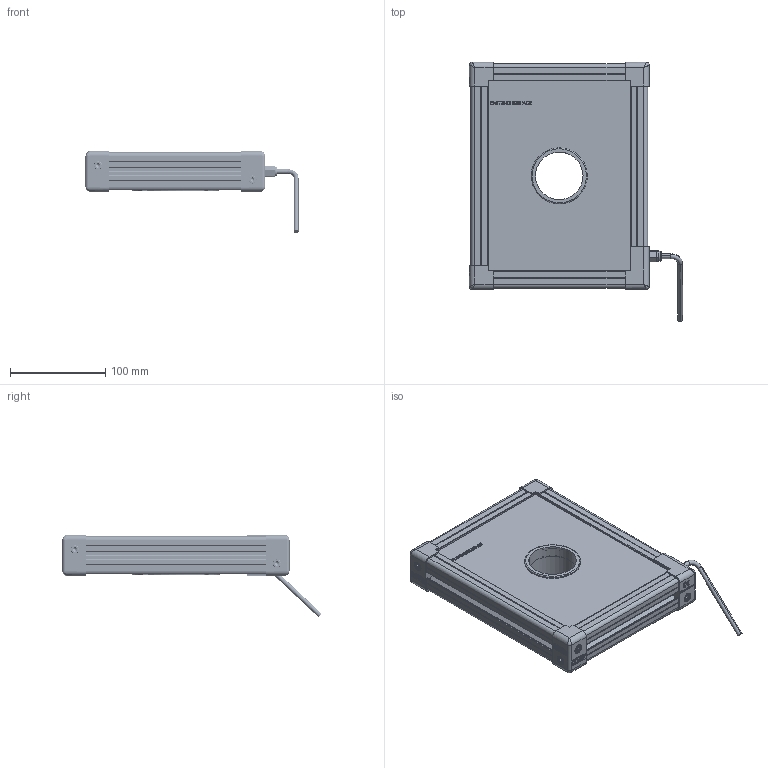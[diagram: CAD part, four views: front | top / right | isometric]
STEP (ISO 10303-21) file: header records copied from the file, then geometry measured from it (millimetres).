
FILE_DESCRIPTION (( 'STEP AP214' ), '1' );
FILE_NAME ('EFFI-FD-150-200-ZZZ-1M12.STEP', '2021-06-18T14:38:43', ( '' ), ( '' ), 'SwSTEP 2.0', 'SolidWorks 2021', '' );
FILE_SCHEMA (( 'AUTOMOTIVE_DESIGN' ));
Length unit declared in the file: millimetre
Products named in the file (13): cordon_Avec cable; EFFI-FD-150-200-ZZZ-1M12; grande joue; 000590; 001040; profile Y_PERCE; 000629; Assemblage Ø50; 001039; profile X_PERCE; petite joue; petite joue + vis; Pièce13^EFFI-BL-XXX-YYY-ZZZ (1connecteur) Ø50
Assembly tree (21 placements, depth 3):
  EFFI-FD-150-200-ZZZ-1M12
    profile X_PERCE  x2
    profile Y_PERCE  x2
    Pièce13^EFFI-BL-XXX-YYY-ZZZ (1connecteur) Ø50
    petite joue + vis  x3
      petite joue
      000629
    000629  x2
    grande joue
    Assemblage Ø50
      001039
      001040
      000590  x3
    cordon_Avec cable
Bounding box: 224.15 x 272.82 x 86.52 mm (x, y, z)
Volume: 1499297.7 mm3; surface area: 259296 mm2
Topology: 22 solids, 28 shells, 3840 faces, 10209 edges, 6700 vertices
Faces by surface type: plane 2371, cylinder 724, bspline 552, cone 150, torus 35, sphere 8
Entity records: 72881 total; most frequent: CARTESIAN_POINT 28442, ORIENTED_EDGE 9308, DIRECTION 7751, EDGE_CURVE 4658, VECTOR 3485, LINE 3485, VERTEX_POINT 3071, AXIS2_PLACEMENT_3D 2133
